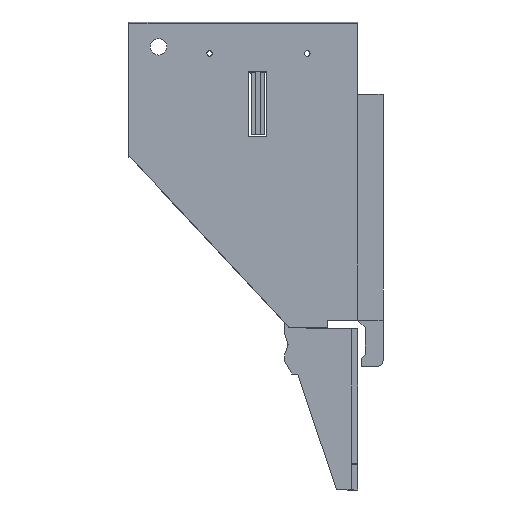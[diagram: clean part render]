
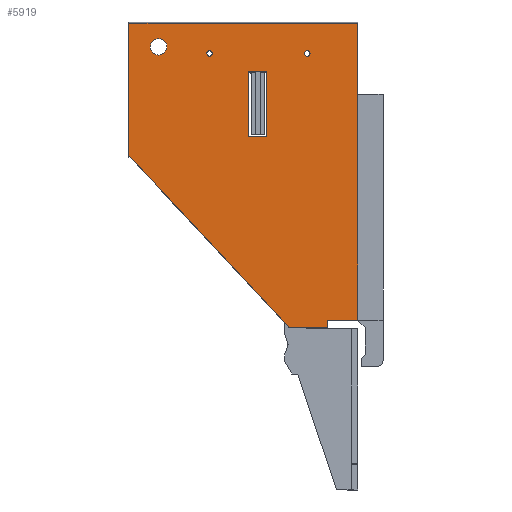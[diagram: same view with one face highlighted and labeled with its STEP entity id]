
A CAD part, front view. The second image highlights one B-rep face of the part: STEP entity #5919.
In plain terms, the highlighted planar face has unit normal (0, -1, 0).
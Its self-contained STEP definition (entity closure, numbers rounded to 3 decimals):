
#34 = CARTESIAN_POINT ( 'NONE',  ( -112.702, 0., -3.694 ) ) ;
#47 = CARTESIAN_POINT ( 'NONE',  ( -77.702, 0., -7.85 ) ) ;
#107 = ORIENTED_EDGE ( 'NONE', *, *, #5227, .F. ) ;
#177 = CARTESIAN_POINT ( 'NONE',  ( -119.702, 0., 0. ) ) ;
#180 = CARTESIAN_POINT ( 'NONE',  ( -87.198, 0., -11.463 ) ) ;
#331 = VERTEX_POINT ( 'NONE', #47 ) ;
#435 = LINE ( 'NONE', #9990, #3070 ) ;
#505 = LINE ( 'NONE', #6802, #7101 ) ;
#584 = CARTESIAN_POINT ( 'NONE',  ( -112.702, 0., -5.636 ) ) ;
#634 = LINE ( 'NONE', #1114, #5260 ) ;
#639 = DIRECTION ( 'NONE',  ( 0., 0., -1. ) ) ;
#687 = AXIS2_PLACEMENT_3D ( 'NONE', #2209, #8165, #3104 ) ;
#733 = CARTESIAN_POINT ( 'NONE',  ( -87.198, 0., -11.463 ) ) ;
#815 = CARTESIAN_POINT ( 'NONE',  ( -65.851, 0., -0.142 ) ) ;
#832 = LINE ( 'NONE', #4953, #9632 ) ;
#998 = CARTESIAN_POINT ( 'NONE',  ( -112.702, 0., -5.636 ) ) ;
#1042 = EDGE_LOOP ( 'NONE', ( #9577, #7803 ) ) ;
#1072 = DIRECTION ( 'NONE',  ( 0., -1., 0. ) ) ;
#1074 = FACE_OUTER_BOUND ( 'NONE', #1603, .T. ) ;
#1087 = CIRCLE ( 'NONE', #5653, 0.65 ) ;
#1114 = CARTESIAN_POINT ( 'NONE',  ( -82.067, 0., -71.691 ) ) ;
#1260 = VERTEX_POINT ( 'NONE', #8754 ) ;
#1354 = FACE_BOUND ( 'NONE', #1042, .T. ) ;
#1477 = DIRECTION ( 'NONE',  ( 0., 0., -1. ) ) ;
#1490 = VECTOR ( 'NONE', #7465, 1000. ) ;
#1494 = CARTESIAN_POINT ( 'NONE',  ( -72.851, 0., -70. ) ) ;
#1549 = VECTOR ( 'NONE', #8229, 1000. ) ;
#1603 = EDGE_LOOP ( 'NONE', ( #8107, #9945, #7005, #10739, #7220, #7867, #8697 ) ) ;
#1675 = EDGE_LOOP ( 'NONE', ( #10432, #6159, #2435, #7496 ) ) ;
#1863 = EDGE_CURVE ( 'NONE', #8718, #10377, #2639, .T. ) ;
#1878 = DIRECTION ( 'NONE',  ( 0., 0., -1. ) ) ;
#1996 = DIRECTION ( 'NONE',  ( 0., 0., 1. ) ) ;
#2209 = CARTESIAN_POINT ( 'NONE',  ( -77.702, 0., -7.2 ) ) ;
#2262 = LINE ( 'NONE', #733, #8789 ) ;
#2308 = CARTESIAN_POINT ( 'NONE',  ( -119.694, 0., -31.342 ) ) ;
#2405 = CARTESIAN_POINT ( 'NONE',  ( -119.694, 0., -31.342 ) ) ;
#2435 = ORIENTED_EDGE ( 'NONE', *, *, #8172, .T. ) ;
#2442 = VERTEX_POINT ( 'NONE', #2405 ) ;
#2545 = EDGE_LOOP ( 'NONE', ( #107, #10703 ) ) ;
#2639 = CIRCLE ( 'NONE', #8556, 1.942 ) ;
#2642 = CARTESIAN_POINT ( 'NONE',  ( -91.498, 0., -11.463 ) ) ;
#2782 = CARTESIAN_POINT ( 'NONE',  ( -100.702, 0., -7.2 ) ) ;
#2813 = CARTESIAN_POINT ( 'NONE',  ( -77.702, 0., -6.55 ) ) ;
#3070 = VECTOR ( 'NONE', #4987, 1000. ) ;
#3104 = DIRECTION ( 'NONE',  ( 0., 0., -1. ) ) ;
#3402 = AXIS2_PLACEMENT_3D ( 'NONE', #10816, #5866, #639 ) ;
#3408 = FACE_BOUND ( 'NONE', #2545, .T. ) ;
#3454 = CARTESIAN_POINT ( 'NONE',  ( -132.763, 0., -0.142 ) ) ;
#3531 = LINE ( 'NONE', #1494, #1490 ) ;
#3564 = CIRCLE ( 'NONE', #687, 0.65 ) ;
#3646 = DIRECTION ( 'NONE',  ( 0., 0., -1. ) ) ;
#3746 = VERTEX_POINT ( 'NONE', #9427 ) ;
#3836 = VERTEX_POINT ( 'NONE', #180 ) ;
#3846 = EDGE_CURVE ( 'NONE', #5082, #9274, #8711, .T. ) ;
#3858 = EDGE_LOOP ( 'NONE', ( #10589, #8872 ) ) ;
#3927 = VERTEX_POINT ( 'NONE', #7222 ) ;
#3971 = VECTOR ( 'NONE', #7446, 1000. ) ;
#4070 = DIRECTION ( 'NONE',  ( 0., 0., 1. ) ) ;
#4139 = AXIS2_PLACEMENT_3D ( 'NONE', #998, #7008, #1878 ) ;
#4436 = EDGE_CURVE ( 'NONE', #7408, #331, #3564, .T. ) ;
#4592 = VERTEX_POINT ( 'NONE', #7576 ) ;
#4596 = LINE ( 'NONE', #3454, #6336 ) ;
#4688 = CARTESIAN_POINT ( 'NONE',  ( -87.198, 0., -26.863 ) ) ;
#4953 = CARTESIAN_POINT ( 'NONE',  ( -87.198, 0., -26.863 ) ) ;
#4987 = DIRECTION ( 'NONE',  ( -1., 0., 0. ) ) ;
#4999 = CARTESIAN_POINT ( 'NONE',  ( -112.702, 0., -7.578 ) ) ;
#5082 = VERTEX_POINT ( 'NONE', #10020 ) ;
#5120 = DIRECTION ( 'NONE',  ( 1., 0., 0. ) ) ;
#5140 = CIRCLE ( 'NONE', #5244, 0.65 ) ;
#5180 = CARTESIAN_POINT ( 'NONE',  ( -77.702, 0., -7.2 ) ) ;
#5227 = EDGE_CURVE ( 'NONE', #10377, #8718, #10889, .T. ) ;
#5244 = AXIS2_PLACEMENT_3D ( 'NONE', #5180, #11006, #6044 ) ;
#5260 = VECTOR ( 'NONE', #7105, 1000. ) ;
#5345 = EDGE_CURVE ( 'NONE', #9919, #9888, #1087, .T. ) ;
#5391 = PLANE ( 'NONE',  #8588 ) ;
#5624 = VECTOR ( 'NONE', #4070, 1000. ) ;
#5653 = AXIS2_PLACEMENT_3D ( 'NONE', #2782, #8703, #3646 ) ;
#5723 = CARTESIAN_POINT ( 'NONE',  ( -65.851, 0., -70. ) ) ;
#5798 = CARTESIAN_POINT ( 'NONE',  ( -91.498, 0., -11.463 ) ) ;
#5838 = VERTEX_POINT ( 'NONE', #2642 ) ;
#5842 = DIRECTION ( 'NONE',  ( 0., 0., -1. ) ) ;
#5866 = DIRECTION ( 'NONE',  ( 0., -1., 0. ) ) ;
#5919 = ADVANCED_FACE ( 'NONE', ( #7906, #1354, #3408, #1074, #9842 ), #5391, .T. ) ;
#6044 = DIRECTION ( 'NONE',  ( 0., 0., -1. ) ) ;
#6131 = EDGE_CURVE ( 'NONE', #3927, #8184, #3531, .T. ) ;
#6139 = CARTESIAN_POINT ( 'NONE',  ( -100.702, 0., -7.85 ) ) ;
#6159 = ORIENTED_EDGE ( 'NONE', *, *, #9796, .T. ) ;
#6336 = VECTOR ( 'NONE', #6867, 1000. ) ;
#6628 = DIRECTION ( 'NONE',  ( 0., -1., 0. ) ) ;
#6647 = EDGE_CURVE ( 'NONE', #2442, #3746, #10025, .T. ) ;
#6692 = EDGE_CURVE ( 'NONE', #8184, #4592, #435, .T. ) ;
#6802 = CARTESIAN_POINT ( 'NONE',  ( -91.498, 0., -26.863 ) ) ;
#6867 = DIRECTION ( 'NONE',  ( 1., 0., 0. ) ) ;
#7005 = ORIENTED_EDGE ( 'NONE', *, *, #10015, .F. ) ;
#7008 = DIRECTION ( 'NONE',  ( 0., -1., 0. ) ) ;
#7048 = EDGE_CURVE ( 'NONE', #5082, #3927, #8092, .T. ) ;
#7075 = DIRECTION ( 'NONE',  ( 0., 0., -1. ) ) ;
#7101 = VECTOR ( 'NONE', #10923, 1000. ) ;
#7105 = DIRECTION ( 'NONE',  ( -0.682, 0., 0.731 ) ) ;
#7220 = ORIENTED_EDGE ( 'NONE', *, *, #6131, .F. ) ;
#7222 = CARTESIAN_POINT ( 'NONE',  ( -72.851, 0., -70. ) ) ;
#7408 = VERTEX_POINT ( 'NONE', #2813 ) ;
#7446 = DIRECTION ( 'NONE',  ( 0., 0., 1. ) ) ;
#7465 = DIRECTION ( 'NONE',  ( 0., 0., -1. ) ) ;
#7496 = ORIENTED_EDGE ( 'NONE', *, *, #10855, .T. ) ;
#7576 = CARTESIAN_POINT ( 'NONE',  ( -81.919, 0., -71.85 ) ) ;
#7764 = EDGE_CURVE ( 'NONE', #3836, #10572, #832, .T. ) ;
#7803 = ORIENTED_EDGE ( 'NONE', *, *, #5345, .F. ) ;
#7867 = ORIENTED_EDGE ( 'NONE', *, *, #7048, .F. ) ;
#7906 = FACE_BOUND ( 'NONE', #3858, .T. ) ;
#8092 = LINE ( 'NONE', #5723, #1549 ) ;
#8107 = ORIENTED_EDGE ( 'NONE', *, *, #9856, .F. ) ;
#8165 = DIRECTION ( 'NONE',  ( 0., -1., 0. ) ) ;
#8172 = EDGE_CURVE ( 'NONE', #1260, #5838, #8461, .T. ) ;
#8184 = VERTEX_POINT ( 'NONE', #9936 ) ;
#8229 = DIRECTION ( 'NONE',  ( -1., 0., 0. ) ) ;
#8457 = VECTOR ( 'NONE', #1996, 1000. ) ;
#8461 = LINE ( 'NONE', #5798, #3971 ) ;
#8556 = AXIS2_PLACEMENT_3D ( 'NONE', #584, #6628, #1477 ) ;
#8588 = AXIS2_PLACEMENT_3D ( 'NONE', #177, #1072, #7075 ) ;
#8697 = ORIENTED_EDGE ( 'NONE', *, *, #3846, .T. ) ;
#8703 = DIRECTION ( 'NONE',  ( 0., -1., 0. ) ) ;
#8711 = LINE ( 'NONE', #8767, #8457 ) ;
#8718 = VERTEX_POINT ( 'NONE', #4999 ) ;
#8754 = CARTESIAN_POINT ( 'NONE',  ( -91.498, 0., -26.863 ) ) ;
#8767 = CARTESIAN_POINT ( 'NONE',  ( -65.851, 0., -95. ) ) ;
#8789 = VECTOR ( 'NONE', #5120, 1000. ) ;
#8872 = ORIENTED_EDGE ( 'NONE', *, *, #9288, .F. ) ;
#9274 = VERTEX_POINT ( 'NONE', #815 ) ;
#9288 = EDGE_CURVE ( 'NONE', #331, #7408, #5140, .T. ) ;
#9427 = CARTESIAN_POINT ( 'NONE',  ( -119.694, 0., -0.142 ) ) ;
#9577 = ORIENTED_EDGE ( 'NONE', *, *, #10764, .F. ) ;
#9632 = VECTOR ( 'NONE', #5842, 1000. ) ;
#9796 = EDGE_CURVE ( 'NONE', #10572, #1260, #505, .T. ) ;
#9814 = CIRCLE ( 'NONE', #3402, 0.65 ) ;
#9842 = FACE_BOUND ( 'NONE', #1675, .T. ) ;
#9856 = EDGE_CURVE ( 'NONE', #3746, #9274, #4596, .T. ) ;
#9888 = VERTEX_POINT ( 'NONE', #10184 ) ;
#9919 = VERTEX_POINT ( 'NONE', #6139 ) ;
#9936 = CARTESIAN_POINT ( 'NONE',  ( -72.851, 0., -71.85 ) ) ;
#9945 = ORIENTED_EDGE ( 'NONE', *, *, #6647, .F. ) ;
#9990 = CARTESIAN_POINT ( 'NONE',  ( -73.351, 0., -71.85 ) ) ;
#10015 = EDGE_CURVE ( 'NONE', #4592, #2442, #634, .T. ) ;
#10020 = CARTESIAN_POINT ( 'NONE',  ( -65.851, 0., -70. ) ) ;
#10025 = LINE ( 'NONE', #2308, #5624 ) ;
#10184 = CARTESIAN_POINT ( 'NONE',  ( -100.702, 0., -6.55 ) ) ;
#10377 = VERTEX_POINT ( 'NONE', #34 ) ;
#10432 = ORIENTED_EDGE ( 'NONE', *, *, #7764, .T. ) ;
#10572 = VERTEX_POINT ( 'NONE', #4688 ) ;
#10589 = ORIENTED_EDGE ( 'NONE', *, *, #4436, .F. ) ;
#10703 = ORIENTED_EDGE ( 'NONE', *, *, #1863, .F. ) ;
#10739 = ORIENTED_EDGE ( 'NONE', *, *, #6692, .F. ) ;
#10764 = EDGE_CURVE ( 'NONE', #9888, #9919, #9814, .T. ) ;
#10816 = CARTESIAN_POINT ( 'NONE',  ( -100.702, 0., -7.2 ) ) ;
#10855 = EDGE_CURVE ( 'NONE', #5838, #3836, #2262, .T. ) ;
#10889 = CIRCLE ( 'NONE', #4139, 1.942 ) ;
#10923 = DIRECTION ( 'NONE',  ( -1., 0., 0. ) ) ;
#11006 = DIRECTION ( 'NONE',  ( 0., -1., 0. ) ) ;
